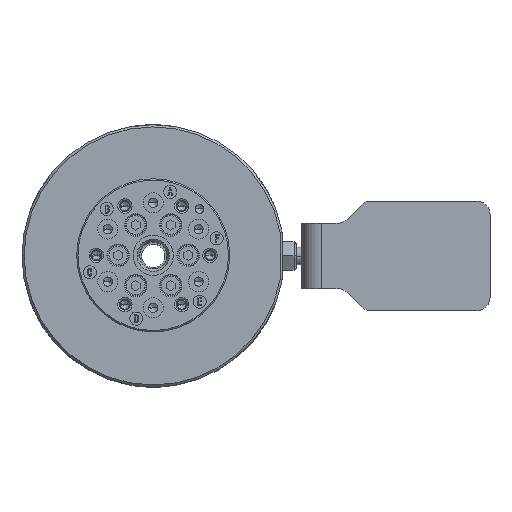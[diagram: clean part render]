
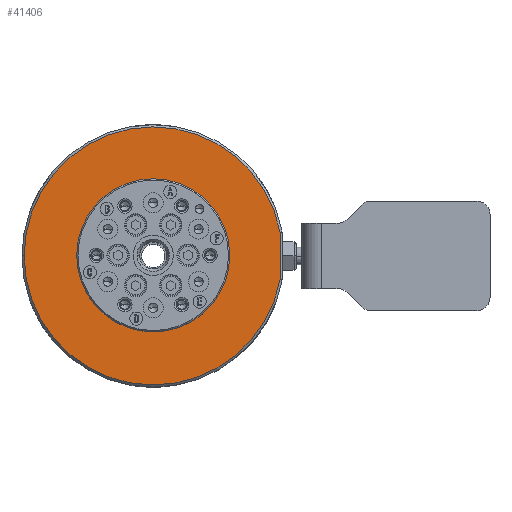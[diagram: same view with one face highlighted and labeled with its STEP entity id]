
A CAD part, top view. The second image highlights one B-rep face of the part: STEP entity #41406.
In plain terms, the highlighted planar face has unit normal (0, 0, 1).
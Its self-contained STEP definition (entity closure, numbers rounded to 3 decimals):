
#734 = DIRECTION ( 'NONE',  ( 0., 0., 1. ) ) ;
#1523 = VECTOR ( 'NONE', #37446, 1000. ) ;
#1761 = CARTESIAN_POINT ( 'NONE',  ( 0., 0., -140.5 ) ) ;
#2497 = DIRECTION ( 'NONE',  ( -1., 0., 0. ) ) ;
#3165 = CARTESIAN_POINT ( 'NONE',  ( 58., 34.5, -140.5 ) ) ;
#5051 = CARTESIAN_POINT ( 'NONE',  ( 0., 0., -140.5 ) ) ;
#5354 = VERTEX_POINT ( 'NONE', #59454 ) ;
#6635 = DIRECTION ( 'NONE',  ( -1., 0., 0. ) ) ;
#7564 = CIRCLE ( 'NONE', #16966, 59. ) ;
#10010 = DIRECTION ( 'NONE',  ( 1., 0., 0. ) ) ;
#10580 = CARTESIAN_POINT ( 'NONE',  ( 0., 34.5, -140.5 ) ) ;
#11656 = EDGE_CURVE ( 'NONE', #5354, #28151, #47560, .T. ) ;
#12166 = EDGE_LOOP ( 'NONE', ( #33227, #60505 ) ) ;
#12718 = ORIENTED_EDGE ( 'NONE', *, *, #53796, .T. ) ;
#13217 = CIRCLE ( 'NONE', #16324, 59. ) ;
#13649 = CARTESIAN_POINT ( 'NONE',  ( -34.5, 0., -140.5 ) ) ;
#13679 = ORIENTED_EDGE ( 'NONE', *, *, #51912, .T. ) ;
#13777 = ORIENTED_EDGE ( 'NONE', *, *, #57568, .T. ) ;
#15516 = DIRECTION ( 'NONE',  ( -1., 0., 0. ) ) ;
#15700 = FACE_OUTER_BOUND ( 'NONE', #17164, .T. ) ;
#16324 = AXIS2_PLACEMENT_3D ( 'NONE', #1761, #36079, #6635 ) ;
#16755 = CARTESIAN_POINT ( 'NONE',  ( 58., -10.817, -140.5 ) ) ;
#16966 = AXIS2_PLACEMENT_3D ( 'NONE', #61252, #31887, #2497 ) ;
#17164 = EDGE_LOOP ( 'NONE', ( #12718, #13679, #13777 ) ) ;
#28151 = VERTEX_POINT ( 'NONE', #13649 ) ;
#30154 = CARTESIAN_POINT ( 'NONE',  ( 0., 0., -140.5 ) ) ;
#31834 = VERTEX_POINT ( 'NONE', #16755 ) ;
#31887 = DIRECTION ( 'NONE',  ( 0., 0., 1. ) ) ;
#33227 = ORIENTED_EDGE ( 'NONE', *, *, #11656, .F. ) ;
#34452 = CIRCLE ( 'NONE', #55745, 34.5 ) ;
#35053 = DIRECTION ( 'NONE',  ( 1., 0., 0. ) ) ;
#36079 = DIRECTION ( 'NONE',  ( 0., 0., 1. ) ) ;
#37446 = DIRECTION ( 'NONE',  ( 0., 1., 0. ) ) ;
#39091 = LINE ( 'NONE', #3165, #1523 ) ;
#39307 = VERTEX_POINT ( 'NONE', #44659 ) ;
#39385 = DIRECTION ( 'NONE',  ( 0., 0., 1. ) ) ;
#41406 = ADVANCED_FACE ( 'NONE', ( #15700, #41788 ), #43762, .F. ) ;
#41788 = FACE_BOUND ( 'NONE', #12166, .T. ) ;
#43762 = PLANE ( 'NONE',  #45619 ) ;
#44659 = CARTESIAN_POINT ( 'NONE',  ( -59., 0., -140.5 ) ) ;
#44824 = DIRECTION ( 'NONE',  ( 0., 0., -1. ) ) ;
#45619 = AXIS2_PLACEMENT_3D ( 'NONE', #10580, #44824, #15516 ) ;
#46229 = CARTESIAN_POINT ( 'NONE',  ( 58., 10.817, -140.5 ) ) ;
#47560 = CIRCLE ( 'NONE', #55229, 34.5 ) ;
#51912 = EDGE_CURVE ( 'NONE', #39307, #31834, #7564, .T. ) ;
#53796 = EDGE_CURVE ( 'NONE', #57467, #39307, #13217, .T. ) ;
#55229 = AXIS2_PLACEMENT_3D ( 'NONE', #5051, #39385, #10010 ) ;
#55745 = AXIS2_PLACEMENT_3D ( 'NONE', #30154, #734, #35053 ) ;
#57467 = VERTEX_POINT ( 'NONE', #46229 ) ;
#57568 = EDGE_CURVE ( 'NONE', #31834, #57467, #39091, .T. ) ;
#57800 = EDGE_CURVE ( 'NONE', #28151, #5354, #34452, .T. ) ;
#59454 = CARTESIAN_POINT ( 'NONE',  ( 34.5, 0., -140.5 ) ) ;
#60505 = ORIENTED_EDGE ( 'NONE', *, *, #57800, .F. ) ;
#61252 = CARTESIAN_POINT ( 'NONE',  ( 0., 0., -140.5 ) ) ;
